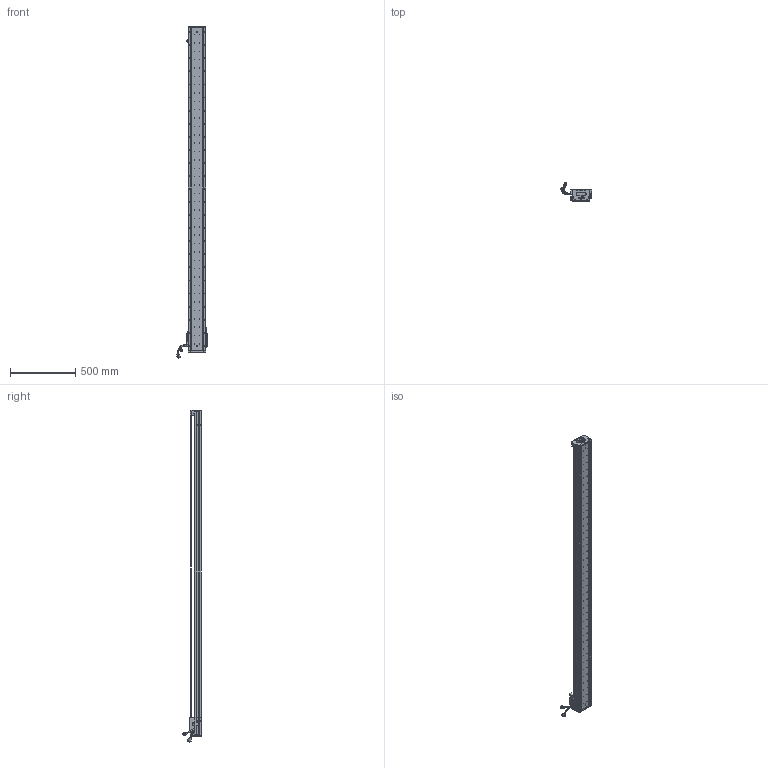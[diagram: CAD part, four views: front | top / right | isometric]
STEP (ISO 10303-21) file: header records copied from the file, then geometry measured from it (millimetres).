
FILE_DESCRIPTION (( 'STEP AP203' ), '1' );
FILE_NAME ('Z1-RY140D-1-L500-B-K.SLDASM_2300.step', '2021-05-17T07:34:44', ( '盈信电脑' ), ( '东莞市道滘镇水果街19号' ), 'SwSTEP 2.0', 'SolidWorks 2016', '' );
FILE_SCHEMA (( 'CONFIG_CONTROL_DESIGN' ));
Length unit declared in the file: millimetre
Products named in the file (36): SCREW-M1.6-2; SCALE-Part-1; SHIELDPLATE; HOLDER0; 080黍杅芛假蚾釱21遴; Z1-RY140-L500詩湍100mm遵_2300; SCREW-M1.6; SCREW-M1.6-3; SCREW-M1.7-1; HARNESS-Part-2; SCALE-Part-2; PSLH080_PSLF2; 140-Z-臏賑輸盄裔(21遴); LABEL-Part-1; Z-140詩湍傷裔啣; SEAL; Z1-RY140圉猾敕臏賑輸(21遴); 140雄赽晤鎢ん堤盄; Z-RY140感应器672光电感应片; Z-RY140詩湍奻揤裔; SCREW-M1.6-1; PBU_SHEET; SCREW-M1.7; HARNESS-Part-1; 榋妏寠巭燃_暯_M2_2; LABEL; Z-RY140詩湍狟揤裔; 140蚥薯蝶輸; SEAL-Part-1; COVER; SCALE; Z1-RY140D-1-L500-B-K.SLDASM_2300; HARNESS; COVER-Part-1; 覜茼ん672; Z1-RY140-L500直线电机模组底座_2300
Assembly tree (41 placements, depth 4):
  Z1-RY140D-1-L500-B-K.SLDASM_2300
    Z1-RY140-L500直线电机模组底座_2300
    Z-RY140感应器672光电感应片
    Z1-RY140圉猾敕臏賑輸(21遴)
    覜茼ん672  x3
    Z1-RY140-L500詩湍100mm遵_2300
    PSLH080_PSLF2
      SCALE
        SCALE-Part-1
        SCALE-Part-2
      HARNESS
        HARNESS-Part-1
        HARNESS-Part-2
      LABEL
        LABEL-Part-1
      COVER
        COVER-Part-1
      SEAL
        SEAL-Part-1
      榋妏寠巭燃_暯_M2_2
      SHIELDPLATE
      SCREW-M1.7
      SCREW-M1.7-1
      PBU_SHEET
      SCREW-M1.6
      SCREW-M1.6-1
      SCREW-M1.6-2
      SCREW-M1.6-3
      HOLDER0
    080黍杅芛假蚾釱21遴
    140-Z-臏賑輸盄裔(21遴)
    Z-140詩湍傷裔啣  x2
    Z-RY140詩湍狟揤裔  x2
    Z-RY140詩湍奻揤裔  x2
    140蚥薯蝶輸  x2
    140雄赽晤鎢ん堤盄
Bounding box: 239.84 x 143.88 x 2540.87 mm (x, y, z)
Volume: 7792555.3 mm3; surface area: 2068734.6 mm2
Topology: 36 solids, 36 shells, 3954 faces, 10764 edges, 6827 vertices
Faces by surface type: cylinder 2122, plane 1344, cone 366, torus 69, bspline 53
Entity records: 125264 total; most frequent: CARTESIAN_POINT 35585, ORIENTED_EDGE 18488, DIRECTION 17032, EDGE_CURVE 9244, AXIS2_PLACEMENT_3D 6306, VERTEX_POINT 5995, LINE 4420, VECTOR 4420
